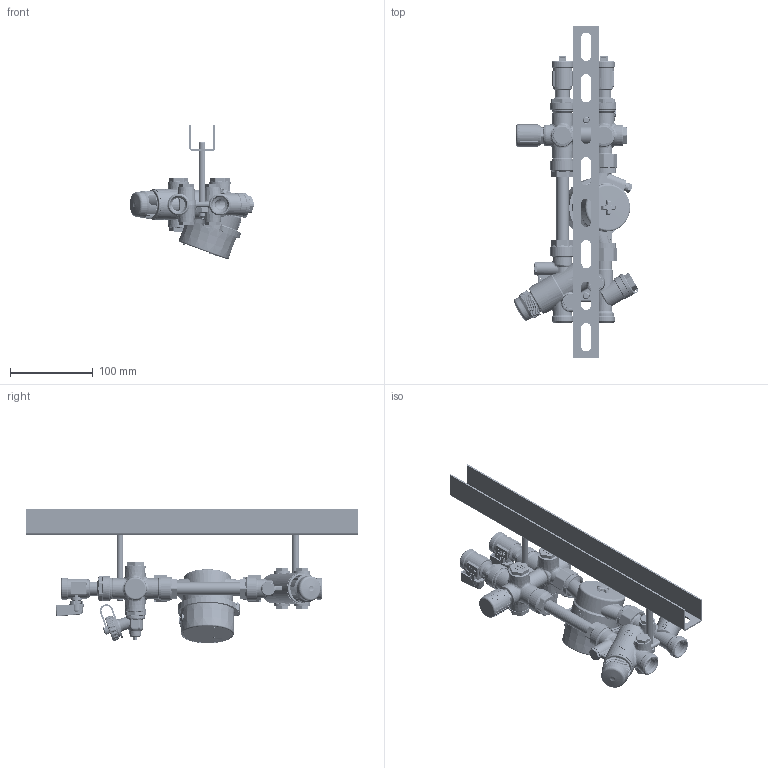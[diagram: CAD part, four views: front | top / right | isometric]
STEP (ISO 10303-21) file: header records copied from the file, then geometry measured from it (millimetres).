
FILE_DESCRIPTION(('STEP AP242'), '1');
FILE_NAME('覆.494726.012.000 捘 - VT.LB.VX.M0', '', ('UNSPECIFIED'), ('UNSPECIFIED'), 'C3D Converter', 'C3D Toolkit', '');
FILE_SCHEMA(('AP242_MANAGED_MODEL_BASED_3D_ENGINEERING_MIM_LF { 1 0 10303 442 1 1 4 }'));
Length unit declared in the file: millimetre
Products named in the file (138): ВР.494726.012.000-01; ВР.494726.012.002 СБ; ВР.494726.012.001-01; ВР.494726.002.001.002 СБ; ВР.731371.001; ВР.725140.002; ВР.753125.023; ВР.758421.046; ВР.753612.008; ВР.305319.007.000 СБ; ВР.753125.011; ВР.305319.008.000 СБ; ВР.753125.012; ВР.494726.012.001.001 СБ; ВР.731378.002; ВР.731378.002П; ВР.305319.003.000 СБ; ВР.752513.005; ВР.493619.002.000 СБ; ВР.753191.001; ВР.713161.001; ВР.712221.001; ВР.493619.002.001 СБ; ВР.753157.001; ВР.493619.002.002 СБ; ВР.716623.001; ВР.753512.018; ВР.494726.002.005 СБ; ВР.713791.001; ВР.407223.001.000 СБ; ВР.407223.001.002 СБ; ВР.731464.002; ВР.753182.016; ВР.714411.001; ВР.715113.003; ВР.407223.001.002.002 СБ; ВР.753192.014; ВР.715113.002; ВР.711141.021; ВР.713121.002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
Assembly tree (164 placements, depth 8):
  ВР.494726.012.000-01
    ВР.494726.012.002 СБ
      ВР.494726.012.001-01
        ВР.494726.002.001.002 СБ
          ВР.731371.001
          ВР.725140.002
          (unnamed)
            ВР.753125.023
            (unnamed)
          ВР.758421.046
          ВР.753612.008
          ВР.305319.007.000 СБ
            ВР.753125.011
            (unnamed)
          ВР.305319.008.000 СБ  x2
            ВР.753125.012
            (unnamed)
        ВР.494726.012.001.001 СБ
          ВР.731378.002
            ВР.731378.002П
          ВР.758421.046
          ВР.753612.008
          ВР.305319.003.000 СБ
            ВР.752513.005
            (unnamed)
          ВР.493619.002.000 СБ
            ВР.753191.001
            ВР.713161.001
            ВР.712221.001
            (unnamed)
            ВР.493619.002.001 СБ
              ВР.753157.001
              (unnamed)
              (unnamed)
              (unnamed)
            ВР.493619.002.002 СБ
              ВР.716623.001
              (unnamed)
            ВР.753512.018
          ВР.494726.002.005 СБ  x2
            ВР.713791.001
            (unnamed)
        ВР.407223.001.000 СБ
          ВР.407223.001.002 СБ
            ВР.731464.002
            ВР.753182.016
            ВР.714411.001
              ВР.715113.003
            ВР.407223.001.002.002 СБ
              ВР.753192.014
                ВР.715113.002
              ВР.711141.021
              ВР.713121.002
            ВР.711141.022
            ВР.407223.001.002.001 СБ
              ВР.753181.009
              ВР.713141.002
            (unnamed)
            ВР.711141.023
            ВР.711242.002
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Bounding box: 149.99 x 400 x 162.13 mm (x, y, z)
Volume: 488613.5 mm3; surface area: 445336.4 mm2
Topology: 148 solids, 151 shells, 7828 faces, 20582 edges, 13419 vertices
Faces by surface type: plane 3783, cylinder 1566, extrusion 976, cone 645, bspline 432, torus 403, sphere 23
Full cylindrical faces by diameter (mm): 0.4 x4, 0.6 x23, 0.7 x2, 0.8 x12, 1.2 x4, 1.3 x1, 1.5 x5, 1.6 x2, 1.7 x1, 1.9 x1, 2 x5, 2.1 x4, 2.2 x5, 2.3 x2, 2.5 x9, 2.6 x1, 2.7 x2, 2.8 x1, 3 x8, 3.242 x2, 3.4 x4, 3.6 x3, 3.8 x1, 4 x7, 4.2 x1, 4.3 x1, 4.5 x3, 4.7 x1, 4.8 x1, 4.9 x1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
Entity records: 298150 total; most frequent: CARTESIAN_POINT 137114, ORIENTED_EDGE 31992, DIRECTION 27272, EDGE_CURVE 16001, VERTEX_POINT 10887, AXIS2_PLACEMENT_3D 9357, VECTOR 8558, EDGE_LOOP 8076
